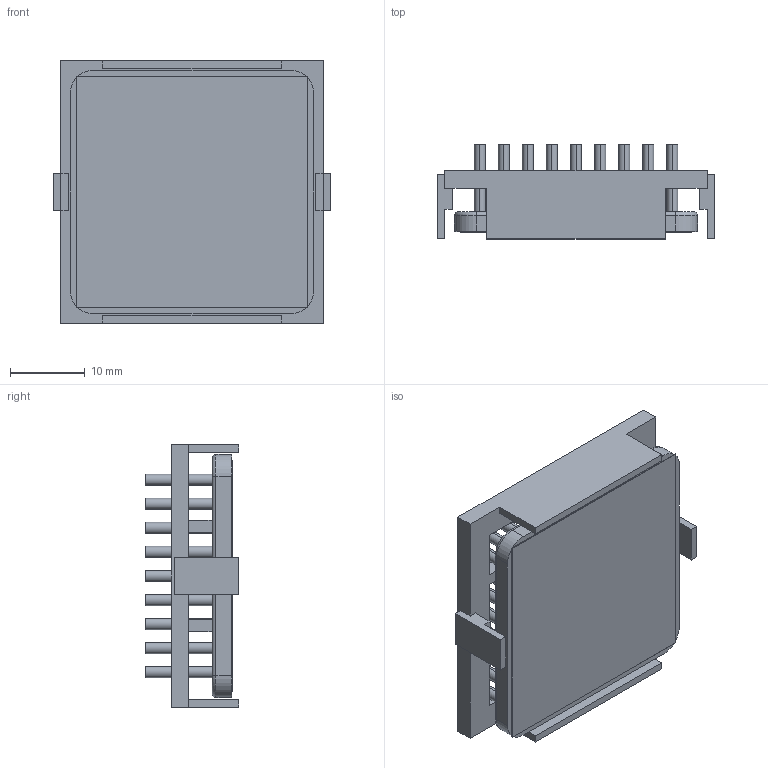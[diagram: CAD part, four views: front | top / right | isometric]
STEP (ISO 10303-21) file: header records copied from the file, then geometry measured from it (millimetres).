
FILE_DESCRIPTION (( 'STEP AP214' ), '1' );
FILE_NAME ('INM33002-12P-2.6O.STEP', '2023-02-22T19:49:27', ( '' ), ( '' ), 'SwSTEP 2.0', 'SolidWorks 2020', '' );
FILE_SCHEMA (( 'AUTOMOTIVE_DESIGN' ));
Length unit declared in the file: millimetre
Products named in the file (1): INM33002-12P-2.6O
Bounding box: 37.2 x 12.6 x 35.2 mm (x, y, z)
Volume: 5627.3 mm3; surface area: 10084.3 mm2
Topology: 3 solids, 3 shells, 301 faces, 658 edges, 436 vertices
Faces by surface type: cylinder 154, plane 143, torus 4
Entity records: 11727 total; most frequent: DIRECTION 1574, CARTESIAN_POINT 1396, ORIENTED_EDGE 1316, EDGE_CURVE 658, AXIS2_PLACEMENT_3D 614, VERTEX_POINT 436, EDGE_LOOP 376, VECTOR 346
